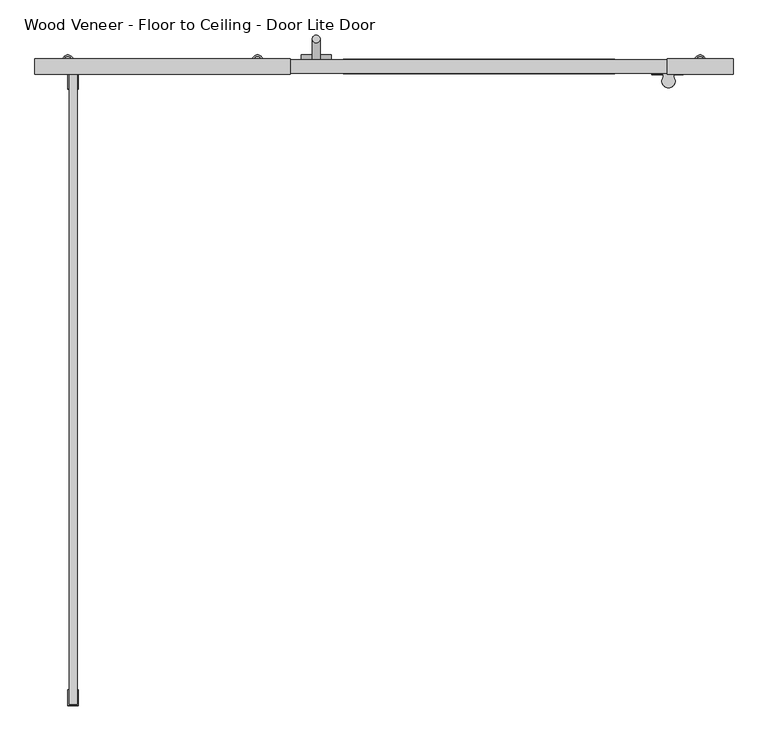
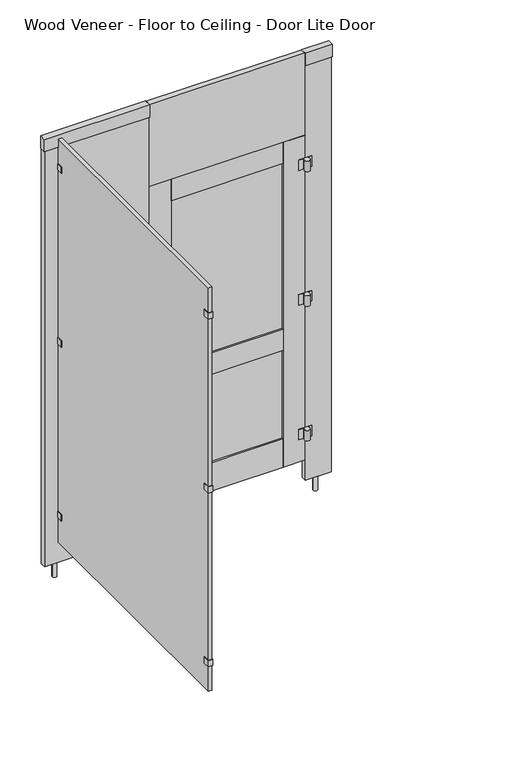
"""IFC4 building model written with IfcOpenShell, lengths in millimetres: proxy geometry, Toilet-Partition_Ironwood-Mfg_Wood-Veneer : Wood Veneer - Floor to Ceiling - Door Lite Door."""

from ifc_helpers import new_model, si_unit, point, frame, frame_2d, origin, place, context, project, spatial, polyline, circle_curve, ellipse_curve, trimmed, segment, composite_curve, outline, extrude, source, transform, mapped, element, save
from ifc_brep_helpers import plane_surface, cylinder_surface, revolved_surface, advanced_brep


def wood_veneer_floor_to_ceiling_door_lite_door_d23d4a8c(model_context):
    return source(origin(), model_context, "Body", "SolidModel", [
        advanced_brep(
        [(774.7, 1555.75, 0.0), (787.4, 1555.75, 0.0), (762.0, 1555.75, 0.0), (787.4, 1555.75, 99.6259642), (762.0, 1555.75, 99.6259642), (783.1666667, 1555.75, 101.6), (766.2333333, 1555.75, 101.6), (783.1666667, 1555.75, 131.3759642), (766.2333333, 1555.75, 131.3759642), (774.7, 1555.75, 131.3759642)],
        [
            (0, 1),
            (1, 2, circle_curve(frame((774.7, 1555.75, 0.0), z_axis=(0.0, 0.0, -1.0), x_axis=(1.0, 0.0, 0.0)), 12.7)),
            (2, 0),
            (2, 1, circle_curve(frame((774.7, 1555.75, 0.0), z_axis=(0.0, 0.0, -1.0), x_axis=(1.0, 0.0, 0.0)), 12.7)),
            (1, 3),
            (3, 4, circle_curve(frame((774.7, 1555.75, 99.6259642), z_axis=(0.0, 0.0, -1.0), x_axis=(1.0, 0.0, 0.0)), 12.7)),
            (4, 2),
            (4, 3, circle_curve(frame((774.7, 1555.75, 99.6259642), z_axis=(0.0, 0.0, -1.0), x_axis=(1.0, 0.0, 0.0)), 12.7)),
            (3, 5),
            (5, 6, circle_curve(frame((774.7, 1555.75, 101.6), z_axis=(0.0, 0.0, -1.0), x_axis=(1.0, 0.0, 0.0)), 8.4666667)),
            (6, 4),
            (6, 5, circle_curve(frame((774.7, 1555.75, 101.6), z_axis=(0.0, 0.0, -1.0), x_axis=(1.0, 0.0, 0.0)), 8.4666667)),
            (5, 7),
            (7, 8, circle_curve(frame((774.7, 1555.75, 131.3759642), z_axis=(0.0, 0.0, -1.0), x_axis=(1.0, 0.0, 0.0)), 8.4666667)),
            (8, 6),
            (8, 7, circle_curve(frame((774.7, 1555.75, 131.3759642), z_axis=(0.0, 0.0, -1.0), x_axis=(1.0, 0.0, 0.0)), 8.4666667)),
            (7, 9),
            (9, 8),
        ],
        [
            plane_surface(frame((774.7, 1555.75, 0.0), z_axis=(0.0, 0.0, -1.0), x_axis=(1.0, 0.0, 0.0))),
            cylinder_surface(frame((774.7, 1555.75, 131.3759642), z_axis=(0.0, 0.0, -1.0), x_axis=(1.0, 0.0, 0.0)), 12.7),
            revolved_surface(polyline([(783.1666667, 1555.75, 101.6), (787.4, 1555.75, 99.6259642)]), (774.7, 1555.75, 131.3759642), (0.0, 0.0, -1.0)),
            cylinder_surface(frame((774.7, 1555.75, 131.3759642), z_axis=(0.0, 0.0, -1.0), x_axis=(1.0, 0.0, 0.0)), 8.4666667),
            plane_surface(frame((774.7, 1555.75, 131.3759642), z_axis=(0.0, 0.0, 1.0), x_axis=(1.0, 0.0, 0.0))),
        ],
        [
            (0, [[1, 2, 3]]),
            (0, [[-3, 4, -1]]),
            (1, [[-2, 5, 6, 7]]),
            (1, [[-4, -7, 8, -5]]),
            (2, [[-6, 9, 10, 11]]),
            (2, [[-8, -11, 12, -9]]),
            (3, [[-10, 13, 14, 15]]),
            (3, [[-12, -15, 16, -13]]),
            (4, [[-14, 17, 18]]),
            (4, [[-16, -18, -17]]),
        ],
    ),
        extrude(outline(polyline([(695.325, 1558.925), (854.075, 1558.925), (854.075, 1520.825), (695.325, 1520.825), (695.325, 1558.925)])), frame((0.0, 0.0, 2667.0), z_axis=(0.0, 0.0, 1.0), x_axis=(1.0, 0.0, 0.0)), (0.0, 0.0, 1.0), 76.1999999),
        extrude(outline(polyline([(850.9, 1524.0), (698.5, 1524.0), (698.5, 1555.75), (850.9, 1555.75), (850.9, 1524.0)])), frame((0.0, 0.0, 101.6), z_axis=(0.0, 0.0, 1.0), x_axis=(1.0, 0.0, 0.0)), (0.0, 0.0, 1.0), 2565.4),
        advanced_brep(
        [(-749.3, 1555.75, 0.0), (-736.6, 1555.75, 0.0), (-762.0, 1555.75, 0.0), (-736.6, 1555.75, 99.6259642), (-762.0, 1555.75, 99.6259642), (-740.8333333, 1555.75, 101.6), (-757.7666667, 1555.75, 101.6), (-740.8333333, 1555.75, 131.3759642), (-757.7666667, 1555.75, 131.3759642), (-749.3, 1555.75, 131.3759642)],
        [
            (0, 1),
            (1, 2, circle_curve(frame((-749.3, 1555.75, 0.0), z_axis=(0.0, 0.0, -1.0), x_axis=(-1.0, 0.0, 0.0)), 12.7)),
            (2, 0),
            (2, 1, circle_curve(frame((-749.3, 1555.75, 0.0), z_axis=(0.0, 0.0, -1.0), x_axis=(-1.0, 0.0, 0.0)), 12.7)),
            (1, 3),
            (3, 4, circle_curve(frame((-749.3, 1555.75, 99.6259642), z_axis=(0.0, 0.0, -1.0), x_axis=(-1.0, 0.0, 0.0)), 12.7)),
            (4, 2),
            (4, 3, circle_curve(frame((-749.3, 1555.75, 99.6259642), z_axis=(0.0, 0.0, -1.0), x_axis=(-1.0, 0.0, 0.0)), 12.7)),
            (3, 5),
            (5, 6, circle_curve(frame((-749.3, 1555.75, 101.6), z_axis=(0.0, 0.0, -1.0), x_axis=(-1.0, 0.0, 0.0)), 8.4666667)),
            (6, 4),
            (6, 5, circle_curve(frame((-749.3, 1555.75, 101.6), z_axis=(0.0, 0.0, -1.0), x_axis=(-1.0, 0.0, 0.0)), 8.4666667)),
            (5, 7),
            (7, 8, circle_curve(frame((-749.3, 1555.75, 131.3759642), z_axis=(0.0, 0.0, -1.0), x_axis=(-1.0, 0.0, 0.0)), 8.4666667)),
            (8, 6),
            (8, 7, circle_curve(frame((-749.3, 1555.75, 131.3759642), z_axis=(0.0, 0.0, -1.0), x_axis=(-1.0, 0.0, 0.0)), 8.4666667)),
            (7, 9),
            (9, 8),
        ],
        [
            plane_surface(frame((-749.3, 1555.75, 0.0), z_axis=(0.0, 0.0, -1.0), x_axis=(-1.0, 0.0, 0.0))),
            cylinder_surface(frame((-749.3, 1555.75, 131.3759642), z_axis=(0.0, 0.0, -1.0), x_axis=(-1.0, 0.0, 0.0)), 12.7),
            revolved_surface(polyline([(-757.7666667, 1555.75, 101.6), (-762.0, 1555.75, 99.6259642)]), (-749.3, 1555.75, 131.3759642), (0.0, 0.0, -1.0)),
            cylinder_surface(frame((-749.3, 1555.75, 131.3759642), z_axis=(0.0, 0.0, -1.0), x_axis=(-1.0, 0.0, 0.0)), 8.4666667),
            plane_surface(frame((-749.3, 1555.75, 131.3759642), z_axis=(0.0, 0.0, 1.0), x_axis=(-1.0, 0.0, 0.0))),
        ],
        [
            (0, [[1, 2, 3]]),
            (0, [[-3, 4, -1]]),
            (1, [[5, 6, 7, -2]]),
            (1, [[-7, 8, -5, -4]]),
            (2, [[9, 10, 11, -6]]),
            (2, [[-11, 12, -9, -8]]),
            (3, [[13, 14, 15, -10]]),
            (3, [[-15, 16, -13, -12]]),
            (4, [[17, 18, -14]]),
            (4, [[-18, -17, -16]]),
        ],
    ),
        advanced_brep(
        [(-292.1, 1555.75, 0.0), (-279.4, 1555.75, 0.0), (-304.8, 1555.75, 0.0), (-279.4, 1555.75, 99.6259642), (-304.8, 1555.75, 99.6259642), (-283.6333333, 1555.75, 101.6), (-300.5666667, 1555.75, 101.6), (-283.6333333, 1555.75, 131.3759642), (-300.5666667, 1555.75, 131.3759642), (-292.1, 1555.75, 131.3759642)],
        [
            (0, 1),
            (1, 2, circle_curve(frame((-292.1, 1555.75, 0.0), z_axis=(0.0, 0.0, -1.0), x_axis=(-1.0, 0.0, 0.0)), 12.7)),
            (2, 0),
            (2, 1, circle_curve(frame((-292.1, 1555.75, 0.0), z_axis=(0.0, 0.0, -1.0), x_axis=(-1.0, 0.0, 0.0)), 12.7)),
            (1, 3),
            (3, 4, circle_curve(frame((-292.1, 1555.75, 99.6259642), z_axis=(0.0, 0.0, -1.0), x_axis=(-1.0, 0.0, 0.0)), 12.7)),
            (4, 2),
            (4, 3, circle_curve(frame((-292.1, 1555.75, 99.6259642), z_axis=(0.0, 0.0, -1.0), x_axis=(-1.0, 0.0, 0.0)), 12.7)),
            (3, 5),
            (5, 6, circle_curve(frame((-292.1, 1555.75, 101.6), z_axis=(0.0, 0.0, -1.0), x_axis=(-1.0, 0.0, 0.0)), 8.4666667)),
            (6, 4),
            (6, 5, circle_curve(frame((-292.1, 1555.75, 101.6), z_axis=(0.0, 0.0, -1.0), x_axis=(-1.0, 0.0, 0.0)), 8.4666667)),
            (5, 7),
            (7, 8, circle_curve(frame((-292.1, 1555.75, 131.3759642), z_axis=(0.0, 0.0, -1.0), x_axis=(-1.0, 0.0, 0.0)), 8.4666667)),
            (8, 6),
            (8, 7, circle_curve(frame((-292.1, 1555.75, 131.3759642), z_axis=(0.0, 0.0, -1.0), x_axis=(-1.0, 0.0, 0.0)), 8.4666667)),
            (7, 9),
            (9, 8),
        ],
        [
            plane_surface(frame((-292.1, 1555.75, 0.0), z_axis=(0.0, 0.0, -1.0), x_axis=(-1.0, 0.0, 0.0))),
            cylinder_surface(frame((-292.1, 1555.75, 131.3759642), z_axis=(0.0, 0.0, -1.0), x_axis=(-1.0, 0.0, 0.0)), 12.7),
            revolved_surface(polyline([(-300.5666667, 1555.75, 101.6), (-304.8, 1555.75, 99.6259642)]), (-292.1, 1555.75, 131.3759642), (0.0, 0.0, -1.0)),
            cylinder_surface(frame((-292.1, 1555.75, 131.3759642), z_axis=(0.0, 0.0, -1.0), x_axis=(-1.0, 0.0, 0.0)), 8.4666667),
            plane_surface(frame((-292.1, 1555.75, 131.3759642), z_axis=(0.0, 0.0, 1.0), x_axis=(-1.0, 0.0, 0.0))),
        ],
        [
            (0, [[1, 2, 3]]),
            (0, [[-3, 4, -1]]),
            (1, [[5, 6, 7, -2]]),
            (1, [[-7, 8, -5, -4]]),
            (2, [[9, 10, 11, -6]]),
            (2, [[-11, 12, -9, -8]]),
            (3, [[13, 14, 15, -10]]),
            (3, [[-15, 16, -13, -12]]),
            (4, [[17, 18, -14]]),
            (4, [[-18, -17, -16]]),
        ],
    ),
        extrude(outline(polyline([(-212.725, 1558.925), (-212.725, 1520.825), (-828.675, 1520.825), (-828.675, 1558.925), (-212.725, 1558.925)])), frame((0.0, 0.0, 2667.0), z_axis=(0.0, 0.0, 1.0), x_axis=(1.0, 0.0, 0.0)), (0.0, 0.0, 1.0), 76.1999999),
        extrude(outline(polyline([(-825.5, 1524.0), (-825.5, 1555.75), (-215.9, 1555.75), (-215.9, 1524.0), (-825.5, 1524.0)])), frame((0.0, 0.0, 101.6), z_axis=(0.0, 0.0, 1.0), x_axis=(1.0, 0.0, 0.0)), (0.0, 0.0, 1.0), 2565.4),
        extrude(outline(polyline([(568.325, 1544.6375), (568.325, 1535.1125), (-85.725, 1535.1125), (-85.725, 1544.6375), (568.325, 1544.6375)])), frame((0.0, 0.0, 1081.0875), z_axis=(0.0, 0.0, 1.0), x_axis=(1.0, 0.0, 0.0)), (0.0, 0.0, 1.0), 1023.9375),
        extrude(outline(polyline([(568.325, 1544.6375), (568.325, 1535.1125), (-85.725, 1535.1125), (-85.725, 1544.6375), (568.325, 1544.6375)])), frame((0.0, 0.0, 403.225), z_axis=(0.0, 0.0, 1.0), x_axis=(1.0, 0.0, 0.0)), (0.0, 0.0, 1.0), 547.6875),
        extrude(outline(polyline([(568.325, 1522.4125), (-85.725, 1522.4125), (-85.725, 1557.3375), (568.325, 1557.3375), (568.325, 1522.4125)])), frame((0.0, 0.0, 950.9125), z_axis=(0.0, 0.0, 1.0), x_axis=(1.0, 0.0, 0.0)), (0.0, 0.0, 1.0), 130.175),
        extrude(outline(polyline([(-85.725, 1524.0), (-215.9, 1524.0), (-215.9, 1555.75), (-85.725, 1555.75), (-85.725, 1524.0)])), frame((0.0, 0.0, 228.6), z_axis=(0.0, 0.0, 1.0), x_axis=(1.0, 0.0, 0.0)), (0.0, 0.0, 1.0), 2006.6),
        extrude(outline(polyline([(568.325, 1524.0), (568.325, 1555.75), (698.5, 1555.75), (698.5, 1524.0), (568.325, 1524.0)])), frame((0.0, 0.0, 228.6), z_axis=(0.0, 0.0, 1.0), x_axis=(1.0, 0.0, 0.0)), (0.0, 0.0, 1.0), 2006.6),
        extrude(outline(polyline([(568.325, 1524.0), (-85.725, 1524.0), (-85.725, 1555.75), (568.325, 1555.75), (568.325, 1524.0)])), frame((0.0, 0.0, 2105.025), z_axis=(0.0, 0.0, 1.0), x_axis=(1.0, 0.0, 0.0)), (0.0, 0.0, 1.0), 130.175),
        extrude(outline(polyline([(568.325, 1524.0), (-85.725, 1524.0), (-85.725, 1555.75), (568.325, 1555.75), (568.325, 1524.0)])), frame((0.0, 0.0, 228.6), z_axis=(0.0, 0.0, 1.0), x_axis=(1.0, 0.0, 0.0)), (0.0, 0.0, 1.0), 174.625),
        extrude(outline(composite_curve([segment(trimmed(circle_curve(frame_2d((1017.5875, -150.8125)), 36.5125), [point((1017.5875, -187.325))], [point((1017.5875, -114.3))], False, "CARTESIAN"), True, "CONTINUOUS"), segment(trimmed(circle_curve(frame_2d((1017.5875, -150.8125)), 36.5125), [point((1017.5875, -114.3))], [point((1017.5875, -187.325))], False, "CARTESIAN"), True, "CONTINUOUS")], self_intersect=False)), frame((0.0, 1555.75, 0.0), z_axis=(0.0, 1.0, 0.0), x_axis=(0.0, 0.0, 1.0)), (0.0, 0.0, 1.0), 12.7),
        advanced_brep(
        [(-160.3375, 1555.75, 1282.7), (-141.2875, 1555.75, 1282.7), (-160.3375, 1555.75, 1181.1), (-141.2875, 1555.75, 1181.1), (-160.3375, 1606.55, 1282.7), (-141.2875, 1606.55, 1282.7), (-160.3375, 1606.55, 1181.1), (-141.2875, 1606.55, 1181.1), (-160.3375, 1606.55, 1333.5), (-141.2875, 1606.55, 1333.5), (-160.3375, 1606.55, 1130.3), (-141.2875, 1606.55, 1130.3)],
        [
            (0, 1, circle_curve(frame((-150.8125, 1555.75, 1282.7), z_axis=(0.0, -1.0, 0.0), x_axis=(1.0, 0.0, 0.0)), 9.525)),
            (1, 0, circle_curve(frame((-150.8125, 1555.75, 1282.7), z_axis=(0.0, -1.0, 0.0), x_axis=(1.0, 0.0, 0.0)), 9.525)),
            (2, 3, circle_curve(frame((-150.8125, 1555.75, 1181.1), z_axis=(0.0, -1.0, 0.0), x_axis=(1.0, 0.0, 0.0)), 9.525)),
            (3, 2, circle_curve(frame((-150.8125, 1555.75, 1181.1), z_axis=(0.0, -1.0, 0.0), x_axis=(1.0, 0.0, 0.0)), 9.525)),
            (0, 4),
            (4, 5, ellipse_curve(frame((-150.8125, 1606.55, 1282.7), z_axis=(0.0, -0.7071067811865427, 0.7071067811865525), x_axis=(0.0, 0.7071067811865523, 0.7071067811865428)), 13.4703842, 9.525)),
            (5, 1),
            (5, 4, ellipse_curve(frame((-150.8125, 1606.55, 1282.7), z_axis=(0.0, -0.7071067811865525, -0.7071067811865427), x_axis=(0.0, 0.7071067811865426, -0.7071067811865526)), 13.4703842, 9.525)),
            (2, 6),
            (6, 7, ellipse_curve(frame((-150.8125, 1606.55, 1181.1), z_axis=(0.0, -0.7071067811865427, 0.7071067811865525), x_axis=(0.0, 0.7071067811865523, 0.7071067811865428)), 13.4703842, 9.525)),
            (7, 3),
            (7, 6, ellipse_curve(frame((-150.8125, 1606.55, 1181.1), z_axis=(0.0, -0.7071067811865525, -0.7071067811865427), x_axis=(0.0, 0.7071067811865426, -0.7071067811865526)), 13.4703842, 9.525)),
            (8, 9, circle_curve(frame((-150.8125, 1606.55, 1333.5), z_axis=(0.0, 0.0, 1.0), x_axis=(1.0, 0.0, 0.0)), 9.525)),
            (9, 8, circle_curve(frame((-150.8125, 1606.55, 1333.5), z_axis=(0.0, 0.0, 1.0), x_axis=(1.0, 0.0, 0.0)), 9.525)),
            (10, 11, circle_curve(frame((-150.8125, 1606.55, 1130.3), z_axis=(0.0, 0.0, -1.0), x_axis=(1.0, 0.0, 0.0)), 9.525)),
            (11, 10, circle_curve(frame((-150.8125, 1606.55, 1130.3), z_axis=(0.0, 0.0, -1.0), x_axis=(1.0, 0.0, 0.0)), 9.525)),
            (9, 5),
            (5, 7),
            (7, 11),
            (10, 6),
            (6, 4),
            (4, 8),
        ],
        [
            plane_surface(frame((-141.2875, 1555.75, 1282.7), z_axis=(0.0, -1.0, 0.0), x_axis=(0.0, 0.0, -1.0))),
            cylinder_surface(frame((-150.8125, 1555.75, 1282.7), z_axis=(0.0, 1.0, 0.0), x_axis=(1.0, 0.0, 0.0)), 9.525),
            cylinder_surface(frame((-150.8125, 1555.75, 1181.1), z_axis=(0.0, 1.0, 0.0), x_axis=(1.0, 0.0, 0.0)), 9.525),
            plane_surface(frame((-141.2875, 1606.55, 1333.5), z_axis=(0.0, 0.0, 1.0), x_axis=(0.0, -1.0, 0.0))),
            plane_surface(frame((-141.2875, 1606.55, 1130.3), z_axis=(0.0, 0.0, -1.0), x_axis=(0.0, 1.0, 0.0))),
            cylinder_surface(frame((-150.8125, 1606.55, 1130.3), z_axis=(0.0, 0.0, 1.0), x_axis=(1.0, 0.0, 0.0)), 9.525),
        ],
        [
            (0, [[1, 2]]),
            (0, [[3, 4]]),
            (1, [[5, 6, 7, -1]]),
            (1, [[-7, 8, -5, -2]]),
            (2, [[9, 10, 11, -3]]),
            (2, [[-11, 12, -9, -4]]),
            (3, [[13, 14]]),
            (4, [[15, 16]]),
            (5, [[17, 18, 19, -15, 20, 21, 22, -14]]),
            (5, [[-12, -18, -6, -21]]),
            (5, [[-22, -8, -17, -13]]),
            (5, [[-19, -10, -20, -16]]),
        ],
    ),
        extrude(outline(composite_curve([segment(polyline([(733.7737081, 1524.0), (733.7737081, 1520.825), (710.8512919, 1520.825), (710.8512919, 1514.9581331)]), True, "CONTINUOUS"), segment(trimmed(circle_curve(frame_2d((698.5, 1504.8902139)), 15.9347861), [point((710.8512919, 1514.9581331))], [point((686.1487081, 1514.9581331))], False, "CARTESIAN"), True, "CONTINUOUS"), segment(polyline([(686.1487081, 1514.9581331), (686.1487081, 1520.825), (657.5737081, 1520.825), (657.5737081, 1524.0), (733.7737081, 1524.0)]), True, "CONTINUOUS")], self_intersect=False)), frame((0.0, 0.0, 2032.0), z_axis=(0.0, 0.0, 1.0), x_axis=(1.0, 0.0, 0.0)), (0.0, 0.0, 1.0), 63.5),
        extrude(outline(composite_curve([segment(polyline([(733.7737081, 1524.0), (733.7737081, 1520.825), (710.8512919, 1520.825), (710.8512919, 1514.9581331)]), True, "CONTINUOUS"), segment(trimmed(circle_curve(frame_2d((698.5, 1504.8902139)), 15.9347861), [point((710.8512919, 1514.9581331))], [point((686.1487081, 1514.9581331))], False, "CARTESIAN"), True, "CONTINUOUS"), segment(polyline([(686.1487081, 1514.9581331), (686.1487081, 1520.825), (657.5737081, 1520.825), (657.5737081, 1524.0), (733.7737081, 1524.0)]), True, "CONTINUOUS")], self_intersect=False)), frame((0.0, 0.0, 1200.1500001), z_axis=(0.0, 0.0, 1.0), x_axis=(1.0, 0.0, 0.0)), (0.0, 0.0, 1.0), 63.5),
        extrude(outline(composite_curve([segment(polyline([(733.7737081, 1524.0), (733.7737081, 1520.825), (710.8512919, 1520.825), (710.8512919, 1514.9581331)]), True, "CONTINUOUS"), segment(trimmed(circle_curve(frame_2d((698.5, 1504.8902139)), 15.9347861), [point((710.8512919, 1514.9581331))], [point((686.1487081, 1514.9581331))], False, "CARTESIAN"), True, "CONTINUOUS"), segment(polyline([(686.1487081, 1514.9581331), (686.1487081, 1520.825), (657.5737081, 1520.825), (657.5737081, 1524.0), (733.7737081, 1524.0)]), True, "CONTINUOUS")], self_intersect=False)), frame((0.0, 0.0, 368.3), z_axis=(0.0, 0.0, 1.0), x_axis=(1.0, 0.0, 0.0)), (0.0, 0.0, 1.0), 63.5),
        extrude(outline(polyline([(-745.998, 1485.9), (-749.173, 1485.9), (-749.173, 1524.0), (-723.773, 1524.0), (-723.773, 1485.9), (-726.948, 1485.9), (-726.948, 1520.825), (-745.998, 1520.825), (-745.998, 1485.9)])), frame((0.0, 0.0, 2527.6188137), z_axis=(0.0, 0.0, 1.0), x_axis=(1.0, 0.0, 0.0)), (0.0, 0.0, 1.0), 38.1),
        extrude(outline(polyline([(-745.998, 38.1), (-745.998, 3.175), (-726.948, 3.175), (-726.948, 38.1), (-723.773, 38.1), (-723.773, 0.0), (-749.173, 0.0), (-749.173, 38.1), (-745.998, 38.1)])), frame((0.0, 0.0, 2527.6188137), z_axis=(0.0, 0.0, 1.0), x_axis=(1.0, 0.0, 0.0)), (0.0, 0.0, 1.0), 38.1),
        extrude(outline(polyline([(-745.998, 1485.9), (-749.173, 1485.9), (-749.173, 1524.0), (-723.773, 1524.0), (-723.773, 1485.9), (-726.948, 1485.9), (-726.948, 1520.825), (-745.998, 1520.825), (-745.998, 1485.9)])), frame((0.0, 0.0, 1454.15), z_axis=(0.0, 0.0, 1.0), x_axis=(1.0, 0.0, 0.0)), (0.0, 0.0, 1.0), 38.1),
        extrude(outline(polyline([(-745.998, 38.1), (-745.998, 3.175), (-726.948, 3.175), (-726.948, 38.1), (-723.773, 38.1), (-723.773, 0.0), (-749.173, 0.0), (-749.173, 38.1), (-745.998, 38.1)])), frame((0.0, 0.0, 1454.15), z_axis=(0.0, 0.0, 1.0), x_axis=(1.0, 0.0, 0.0)), (0.0, 0.0, 1.0), 38.1),
        extrude(outline(polyline([(-745.998, 1485.9), (-749.173, 1485.9), (-749.173, 1524.0), (-723.773, 1524.0), (-723.773, 1485.9), (-726.948, 1485.9), (-726.948, 1520.825), (-745.998, 1520.825), (-745.998, 1485.9)])), frame((0.0, 0.0, 381.0), z_axis=(0.0, 0.0, 1.0), x_axis=(1.0, 0.0, 0.0)), (0.0, 0.0, 1.0), 38.1),
        extrude(outline(polyline([(-745.998, 38.1), (-745.998, 3.175), (-726.948, 3.175), (-726.948, 38.1), (-723.773, 38.1), (-723.773, 0.0), (-749.173, 0.0), (-749.173, 38.1), (-745.998, 38.1)])), frame((0.0, 0.0, 381.0), z_axis=(0.0, 0.0, 1.0), x_axis=(1.0, 0.0, 0.0)), (0.0, 0.0, 1.0), 38.1),
        extrude(outline(polyline([(-726.948, 3.175), (-745.998, 3.175), (-745.998, 1520.825), (-726.948, 1520.825), (-726.948, 3.175)])), frame((0.0, 0.0, 228.6), z_axis=(0.0, 0.0, 1.0), x_axis=(1.0, 0.0, 0.0)), (0.0, 0.0, 1.0), 2489.2),
        extrude(outline(polyline([(698.5, 1524.0), (-215.9, 1524.0), (-215.9, 1555.75), (698.5, 1555.75), (698.5, 1524.0)])), frame((0.0, 0.0, 2236.7875), z_axis=(0.0, 0.0, 1.0), x_axis=(1.0, 0.0, 0.0)), (0.0, 0.0, 1.0), 506.4125),
    ])


if __name__ == "__main__":
    model = new_model("IFC4")
    model_context = context("Model", 3, world=origin())
    ifc_project = project(units=[si_unit("LENGTHUNIT", "METRE", prefix="MILLI")], contexts=[model_context])
    site = spatial("IfcSite", under=ifc_project)
    building = spatial("IfcBuilding", under=site)
    placement = place(None, origin())
    wood_veneer_floor_to_ceiling_door_lite_door_shape = wood_veneer_floor_to_ceiling_door_lite_door_d23d4a8c(model_context)
    element("IfcBuildingElementProxy", 1, Name="Toilet-Partition_Ironwood-Mfg_Wood-Veneer : Wood Veneer - Floor to Ceiling - Door Lite Door", ObjectType="Toilet-Partition_Ironwood-Mfg_Wood-Veneer : Wood Veneer - Floor to Ceiling - Door Lite Door", at=placement, inside=building, context=model_context, shape_type="MappedRepresentation", body=[
        mapped(wood_veneer_floor_to_ceiling_door_lite_door_shape, transform((0.0, 0.0, 0.0), x_axis=(1.0, 0.0, 0.0), y_axis=(0.0, 1.0, 0.0), z_axis=(0.0, 0.0, 1.0))),
    ])
    save(model, "model.ifc")
